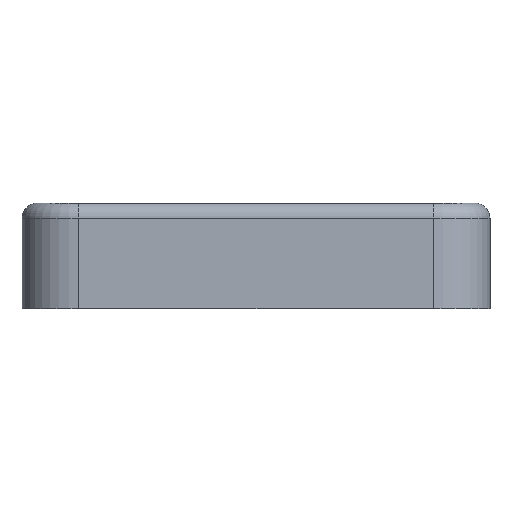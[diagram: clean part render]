
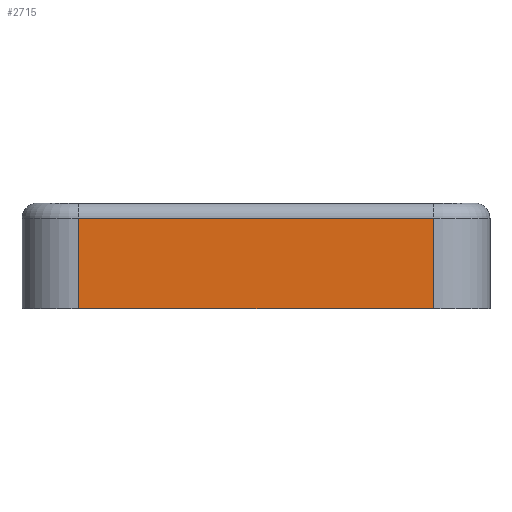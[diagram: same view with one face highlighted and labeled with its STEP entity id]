
A CAD part, left-side view. The second image highlights one B-rep face of the part: STEP entity #2715.
In plain terms, the highlighted planar face has unit normal (-1, 0, 0).
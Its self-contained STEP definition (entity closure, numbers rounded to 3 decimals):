
#126 = PLANE('',#127);
#127 = AXIS2_PLACEMENT_3D('',#128,#129,#130);
#128 = CARTESIAN_POINT('',(0.,0.,14.5));
#129 = DIRECTION('',(0.,0.,1.));
#130 = DIRECTION('',(1.,0.,0.));
#563 = VERTEX_POINT('',#564);
#564 = CARTESIAN_POINT('',(-31.5,11.75,14.5));
#579 = CYLINDRICAL_SURFACE('',#580,3.75);
#580 = AXIS2_PLACEMENT_3D('',#581,#582,#583);
#581 = CARTESIAN_POINT('',(-27.75,11.75,14.5));
#582 = DIRECTION('',(-0.,-0.,-1.));
#583 = DIRECTION('',(1.,0.,0.));
#591 = EDGE_CURVE('',#592,#563,#594,.T.);
#592 = VERTEX_POINT('',#593);
#593 = CARTESIAN_POINT('',(-31.5,-11.75,14.5));
#594 = SURFACE_CURVE('',#595,(#599,#606),.PCURVE_S1.);
#595 = LINE('',#596,#597);
#596 = CARTESIAN_POINT('',(-31.5,-11.75,14.5));
#597 = VECTOR('',#598,1.);
#598 = DIRECTION('',(0.,1.,0.));
#599 = PCURVE('',#126,#600);
#600 = DEFINITIONAL_REPRESENTATION('',(#601),#605);
#601 = LINE('',#602,#603);
#602 = CARTESIAN_POINT('',(-31.5,-11.75));
#603 = VECTOR('',#604,1.);
#604 = DIRECTION('',(0.,1.));
#605 = ( GEOMETRIC_REPRESENTATION_CONTEXT(2) 
PARAMETRIC_REPRESENTATION_CONTEXT() REPRESENTATION_CONTEXT('2D SPACE',''
  ) );
#606 = PCURVE('',#607,#612);
#607 = PLANE('',#608);
#608 = AXIS2_PLACEMENT_3D('',#609,#610,#611);
#609 = CARTESIAN_POINT('',(-31.5,-11.75,14.5));
#610 = DIRECTION('',(-1.,0.,0.));
#611 = DIRECTION('',(0.,1.,0.));
#612 = DEFINITIONAL_REPRESENTATION('',(#613),#617);
#613 = LINE('',#614,#615);
#614 = CARTESIAN_POINT('',(0.,0.));
#615 = VECTOR('',#616,1.);
#616 = DIRECTION('',(1.,0.));
#617 = ( GEOMETRIC_REPRESENTATION_CONTEXT(2) 
PARAMETRIC_REPRESENTATION_CONTEXT() REPRESENTATION_CONTEXT('2D SPACE',''
  ) );
#636 = CYLINDRICAL_SURFACE('',#637,3.75);
#637 = AXIS2_PLACEMENT_3D('',#638,#639,#640);
#638 = CARTESIAN_POINT('',(-27.75,-11.75,14.5));
#639 = DIRECTION('',(-0.,-0.,-1.));
#640 = DIRECTION('',(1.,0.,0.));
#1682 = CYLINDRICAL_SURFACE('',#1683,1.);
#1683 = AXIS2_PLACEMENT_3D('',#1684,#1685,#1686);
#1684 = CARTESIAN_POINT('',(-30.5,-11.75,20.5));
#1685 = DIRECTION('',(0.,1.,0.));
#1686 = DIRECTION('',(-1.,0.,0.));
#2621 = VERTEX_POINT('',#2622);
#2622 = CARTESIAN_POINT('',(-31.5,11.75,20.5));
#2644 = EDGE_CURVE('',#563,#2621,#2645,.T.);
#2645 = SURFACE_CURVE('',#2646,(#2650,#2657),.PCURVE_S1.);
#2646 = LINE('',#2647,#2648);
#2647 = CARTESIAN_POINT('',(-31.5,11.75,14.5));
#2648 = VECTOR('',#2649,1.);
#2649 = DIRECTION('',(0.,0.,1.));
#2650 = PCURVE('',#579,#2651);
#2651 = DEFINITIONAL_REPRESENTATION('',(#2652),#2656);
#2652 = LINE('',#2653,#2654);
#2653 = CARTESIAN_POINT('',(-3.142,0.));
#2654 = VECTOR('',#2655,1.);
#2655 = DIRECTION('',(-0.,-1.));
#2656 = ( GEOMETRIC_REPRESENTATION_CONTEXT(2) 
PARAMETRIC_REPRESENTATION_CONTEXT() REPRESENTATION_CONTEXT('2D SPACE',''
  ) );
#2657 = PCURVE('',#607,#2658);
#2658 = DEFINITIONAL_REPRESENTATION('',(#2659),#2663);
#2659 = LINE('',#2660,#2661);
#2660 = CARTESIAN_POINT('',(23.5,0.));
#2661 = VECTOR('',#2662,1.);
#2662 = DIRECTION('',(0.,-1.));
#2663 = ( GEOMETRIC_REPRESENTATION_CONTEXT(2) 
PARAMETRIC_REPRESENTATION_CONTEXT() REPRESENTATION_CONTEXT('2D SPACE',''
  ) );
#2669 = EDGE_CURVE('',#592,#2670,#2672,.T.);
#2670 = VERTEX_POINT('',#2671);
#2671 = CARTESIAN_POINT('',(-31.5,-11.75,20.5));
#2672 = SURFACE_CURVE('',#2673,(#2677,#2684),.PCURVE_S1.);
#2673 = LINE('',#2674,#2675);
#2674 = CARTESIAN_POINT('',(-31.5,-11.75,14.5));
#2675 = VECTOR('',#2676,1.);
#2676 = DIRECTION('',(0.,0.,1.));
#2677 = PCURVE('',#636,#2678);
#2678 = DEFINITIONAL_REPRESENTATION('',(#2679),#2683);
#2679 = LINE('',#2680,#2681);
#2680 = CARTESIAN_POINT('',(-3.142,0.));
#2681 = VECTOR('',#2682,1.);
#2682 = DIRECTION('',(-0.,-1.));
#2683 = ( GEOMETRIC_REPRESENTATION_CONTEXT(2) 
PARAMETRIC_REPRESENTATION_CONTEXT() REPRESENTATION_CONTEXT('2D SPACE',''
  ) );
#2684 = PCURVE('',#607,#2685);
#2685 = DEFINITIONAL_REPRESENTATION('',(#2686),#2690);
#2686 = LINE('',#2687,#2688);
#2687 = CARTESIAN_POINT('',(0.,0.));
#2688 = VECTOR('',#2689,1.);
#2689 = DIRECTION('',(0.,-1.));
#2690 = ( GEOMETRIC_REPRESENTATION_CONTEXT(2) 
PARAMETRIC_REPRESENTATION_CONTEXT() REPRESENTATION_CONTEXT('2D SPACE',''
  ) );
#2715 = ADVANCED_FACE('',(#2716),#607,.T.);
#2716 = FACE_BOUND('',#2717,.T.);
#2717 = EDGE_LOOP('',(#2718,#2719,#2740,#2741));
#2718 = ORIENTED_EDGE('',*,*,#2669,.T.);
#2719 = ORIENTED_EDGE('',*,*,#2720,.T.);
#2720 = EDGE_CURVE('',#2670,#2621,#2721,.T.);
#2721 = SURFACE_CURVE('',#2722,(#2726,#2733),.PCURVE_S1.);
#2722 = LINE('',#2723,#2724);
#2723 = CARTESIAN_POINT('',(-31.5,-11.75,20.5));
#2724 = VECTOR('',#2725,1.);
#2725 = DIRECTION('',(0.,1.,0.));
#2726 = PCURVE('',#607,#2727);
#2727 = DEFINITIONAL_REPRESENTATION('',(#2728),#2732);
#2728 = LINE('',#2729,#2730);
#2729 = CARTESIAN_POINT('',(0.,-6.));
#2730 = VECTOR('',#2731,1.);
#2731 = DIRECTION('',(1.,0.));
#2732 = ( GEOMETRIC_REPRESENTATION_CONTEXT(2) 
PARAMETRIC_REPRESENTATION_CONTEXT() REPRESENTATION_CONTEXT('2D SPACE',''
  ) );
#2733 = PCURVE('',#1682,#2734);
#2734 = DEFINITIONAL_REPRESENTATION('',(#2735),#2739);
#2735 = LINE('',#2736,#2737);
#2736 = CARTESIAN_POINT('',(0.,0.));
#2737 = VECTOR('',#2738,1.);
#2738 = DIRECTION('',(0.,1.));
#2739 = ( GEOMETRIC_REPRESENTATION_CONTEXT(2) 
PARAMETRIC_REPRESENTATION_CONTEXT() REPRESENTATION_CONTEXT('2D SPACE',''
  ) );
#2740 = ORIENTED_EDGE('',*,*,#2644,.F.);
#2741 = ORIENTED_EDGE('',*,*,#591,.F.);
